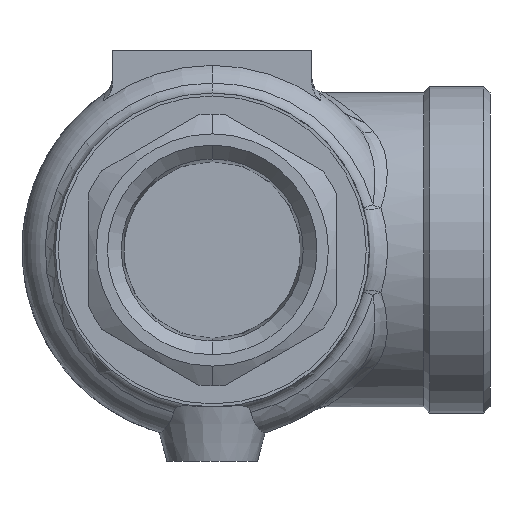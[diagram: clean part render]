
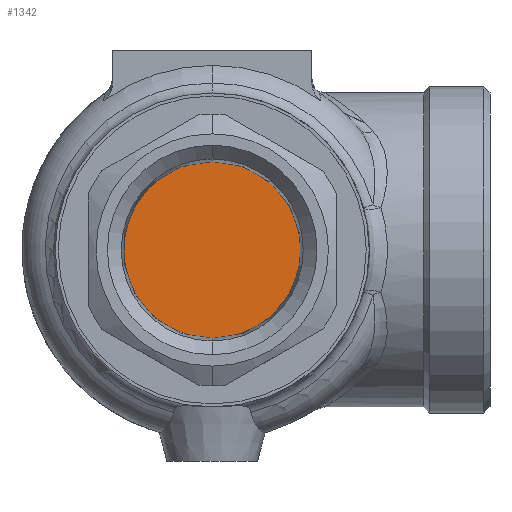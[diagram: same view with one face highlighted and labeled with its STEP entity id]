
A CAD part, front view. The second image highlights one B-rep face of the part: STEP entity #1342.
In plain terms, the highlighted planar face has unit normal (0, -1, 0).
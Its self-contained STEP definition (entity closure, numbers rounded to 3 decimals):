
#311 = DIRECTION ( 'NONE',  ( 0., 1., 0. ) ) ;
#495 = CIRCLE ( 'NONE', #635, 14.63 ) ;
#550 = VERTEX_POINT ( 'NONE', #3423 ) ;
#635 = AXIS2_PLACEMENT_3D ( 'NONE', #2471, #311, #891 ) ;
#765 = CIRCLE ( 'NONE', #1696, 14.63 ) ;
#792 = AXIS2_PLACEMENT_3D ( 'NONE', #3744, #4008, #3421 ) ;
#891 = DIRECTION ( 'NONE',  ( 0., 0., 1. ) ) ;
#1342 = ADVANCED_FACE ( 'NONE', ( #3360 ), #2754, .F. ) ;
#1696 = AXIS2_PLACEMENT_3D ( 'NONE', #2692, #2487, #3904 ) ;
#1705 = ORIENTED_EDGE ( 'NONE', *, *, #3206, .F. ) ;
#1824 = VERTEX_POINT ( 'NONE', #2818 ) ;
#1930 = EDGE_LOOP ( 'NONE', ( #2301, #1705 ) ) ;
#2124 = EDGE_CURVE ( 'NONE', #550, #1824, #765, .T. ) ;
#2301 = ORIENTED_EDGE ( 'NONE', *, *, #2124, .F. ) ;
#2471 = CARTESIAN_POINT ( 'NONE',  ( 0., -38.5, 0. ) ) ;
#2487 = DIRECTION ( 'NONE',  ( 0., 1., 0. ) ) ;
#2692 = CARTESIAN_POINT ( 'NONE',  ( 0., -38.5, 0. ) ) ;
#2754 = PLANE ( 'NONE',  #792 ) ;
#2818 = CARTESIAN_POINT ( 'NONE',  ( 0., -38.5, 14.63 ) ) ;
#3206 = EDGE_CURVE ( 'NONE', #1824, #550, #495, .T. ) ;
#3360 = FACE_OUTER_BOUND ( 'NONE', #1930, .T. ) ;
#3421 = DIRECTION ( 'NONE',  ( 0., 0., 1. ) ) ;
#3423 = CARTESIAN_POINT ( 'NONE',  ( 0., -38.5, -14.63 ) ) ;
#3744 = CARTESIAN_POINT ( 'NONE',  ( -14.63, -38.5, 0. ) ) ;
#3904 = DIRECTION ( 'NONE',  ( 0., 0., 1. ) ) ;
#4008 = DIRECTION ( 'NONE',  ( 0., 1., 0. ) ) ;
